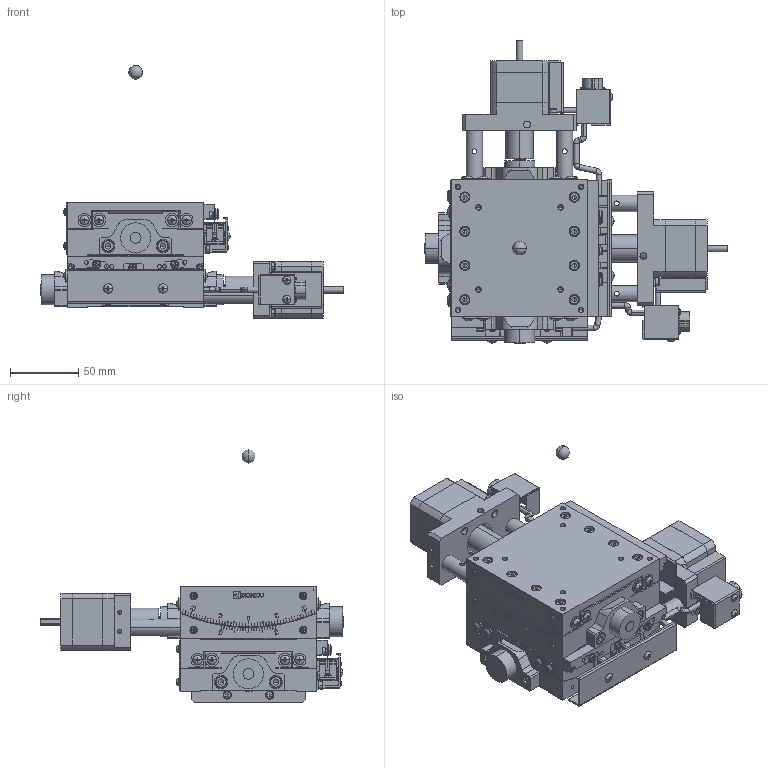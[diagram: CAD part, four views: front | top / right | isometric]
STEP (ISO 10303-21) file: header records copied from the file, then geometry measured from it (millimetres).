
FILE_DESCRIPTION( (''), '2;1');
FILE_NAME ('SA10A-R2S01-RRR.stp','2021-11-19T15:00:02',(''),(''),'spGate 17.5.5','','');
FILE_SCHEMA (('AUTOMOTIVE_DESIGN'));
Length unit declared in the file: millimetre
Products named in the file (5): Assembly; SA10A-R2S01-RRR-prt0; SA10A-R2S01-RRR-prt1; SA10A-R2S01-RRR-prt2; SA10A-R2S01-RRR-prt3
Assembly tree (4 placements, depth 2):
  Assembly
    SA10A-R2S01-RRR-prt0
    SA10A-R2S01-RRR-prt1
    SA10A-R2S01-RRR-prt2
    SA10A-R2S01-RRR-prt3
Bounding box: 221.5 x 221.5 x 185 mm (x, y, z)
Volume: 1078699.3 mm3; surface area: 254402.8 mm2
Topology: 4 solids, 18 shells, 5545 faces, 14027 edges, 8745 vertices
Faces by surface type: plane 3701, cylinder 1096, bspline 656, sphere 92
Entity records: 283399 total; most frequent: CARTESIAN_POINT 42191, ORIENTED_EDGE 27638, DIRECTION 25780, COLOUR_RGB 19368, PRESENTATION_STYLE_ASSIGNMENT 19368, STYLED_ITEM 19368, EDGE_CURVE 13819, DRAUGHTING_PRE_DEFINED_CURVE_FONT 13819
